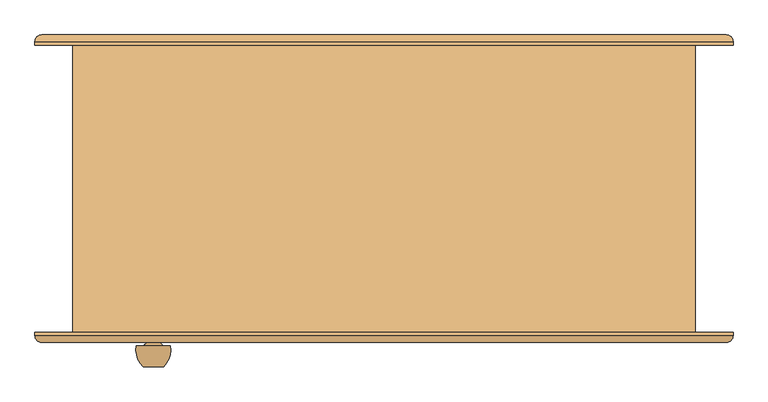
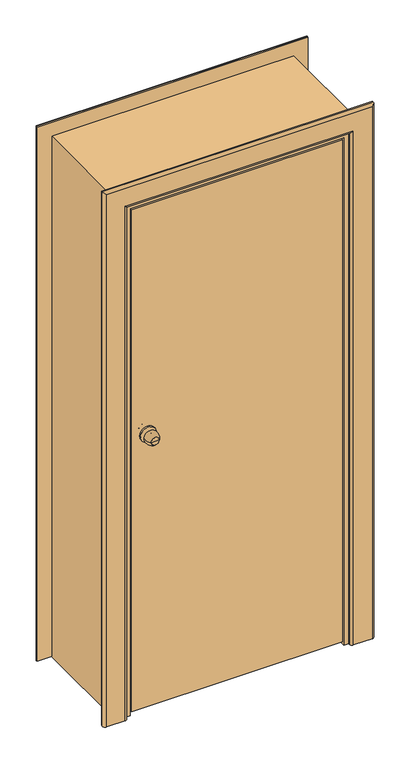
"""IFC4 building model written with IfcOpenShell, lengths in millimetres: door geometry, Внутренняя дверь 1-Навесная - 6629-88 : ДГ 21-9  ГОСТ 6629-88."""

from ifc_helpers import new_model, si_unit, point, frame, origin, place, context, project, spatial, polyline, circle_curve, ellipse_curve, trimmed, outline, extrude, faceted_brep, source, transform, mapped, element, save
from ifc_brep_helpers import plane_surface, cylinder_surface, revolved_surface, advanced_brep


def door_3d735259(model_context):
    return source(origin(), model_context, "Body", "SolidModel", [
        advanced_brep(
        [(-322.0, -260.0, 1100.0), (-352.0, -260.0, 1100.0), (-337.0, -260.0, 1100.0), (-312.0, -230.0, 1100.0), (-362.0, -230.0, 1100.0), (-319.0, -230.0, 1100.0), (-355.0, -230.0, 1100.0), (-327.0, -222.0, 1100.0), (-347.0, -222.0, 1100.0), (-327.0, -216.0, 1100.0), (-347.0, -216.0, 1100.0), (-367.0, -216.0, 1100.0), (-307.0, -216.0, 1100.0), (-367.0, -210.0, 1100.0), (-307.0, -210.0, 1100.0)],
        [
            (0, 1, circle_curve(frame((-337.0, -260.0, 1100.0), z_axis=(0.0, -1.0, 0.0), x_axis=(-1.0, 0.0, 0.0)), 15.0)),
            (1, 2),
            (2, 0),
            (1, 0, circle_curve(frame((-337.0, -260.0, 1100.0), z_axis=(0.0, -1.0, 0.0), x_axis=(-1.0, 0.0, 0.0)), 15.0)),
            (0, 3, circle_curve(frame((-346.6226265, -235.1257912, 1100.0), z_axis=(0.0, 0.0, 1.0), x_axis=(-1.0, 0.0, 0.0)), 35.0)),
            (3, 4, circle_curve(frame((-337.0, -230.0, 1100.0), z_axis=(0.0, -1.0, 0.0), x_axis=(-1.0, 0.0, 0.0)), 25.0)),
            (4, 1, circle_curve(frame((-327.3773735, -235.1257912, 1100.0), z_axis=(0.0, 0.0, 1.0), x_axis=(1.0, 0.0, 0.0)), 35.0)),
            (4, 3, circle_curve(frame((-337.0, -230.0, 1100.0), z_axis=(0.0, -1.0, 0.0), x_axis=(-1.0, 0.0, 0.0)), 25.0)),
            (3, 5),
            (5, 6, circle_curve(frame((-337.0, -230.0, 1100.0), z_axis=(0.0, -1.0, 0.0), x_axis=(-1.0, 0.0, 0.0)), 18.0)),
            (6, 4),
            (6, 5, circle_curve(frame((-337.0, -230.0, 1100.0), z_axis=(0.0, -1.0, 0.0), x_axis=(-1.0, 0.0, 0.0)), 18.0)),
            (5, 7, circle_curve(frame((-319.0, -222.0, 1100.0), z_axis=(0.0, 0.0, -1.0), x_axis=(-1.0, 0.0, 0.0)), 8.0)),
            (7, 8, circle_curve(frame((-337.0, -222.0, 1100.0), z_axis=(0.0, -1.0, 0.0), x_axis=(-1.0, 0.0, 0.0)), 10.0)),
            (8, 6, circle_curve(frame((-355.0, -222.0, 1100.0), z_axis=(0.0, 0.0, -1.0), x_axis=(1.0, 0.0, 0.0)), 8.0)),
            (8, 7, circle_curve(frame((-337.0, -222.0, 1100.0), z_axis=(0.0, -1.0, 0.0), x_axis=(-1.0, 0.0, 0.0)), 10.0)),
            (7, 9),
            (9, 10, circle_curve(frame((-337.0, -216.0, 1100.0), z_axis=(0.0, -1.0, 0.0), x_axis=(-1.0, 0.0, 0.0)), 10.0)),
            (10, 8),
            (10, 9, circle_curve(frame((-337.0, -216.0, 1100.0), z_axis=(0.0, -1.0, 0.0), x_axis=(-1.0, 0.0, 0.0)), 10.0)),
            (11, 12, circle_curve(frame((-337.0, -216.0, 1100.0), z_axis=(0.0, -1.0, 0.0), x_axis=(1.0, 0.0, 0.0)), 30.0)),
            (12, 11, circle_curve(frame((-337.0, -216.0, 1100.0), z_axis=(0.0, -1.0, 0.0), x_axis=(1.0, 0.0, 0.0)), 30.0)),
            (13, 14, circle_curve(frame((-337.0, -210.0, 1100.0), z_axis=(0.0, 1.0, 0.0), x_axis=(1.0, 0.0, 0.0)), 30.0)),
            (14, 13, circle_curve(frame((-337.0, -210.0, 1100.0), z_axis=(0.0, 1.0, 0.0), x_axis=(1.0, 0.0, 0.0)), 30.0)),
            (11, 13),
            (14, 12),
        ],
        [
            plane_surface(frame((-337.0, -260.0, 1100.0), z_axis=(0.0, -1.0, 0.0), x_axis=(-1.0, 0.0, 0.0))),
            revolved_surface(trimmed(ellipse_curve(frame((-327.3773735, -235.1257912, 1100.0), z_axis=(0.0, 0.0, -1.0), x_axis=(1.0, 0.0, 0.0)), 35.0, 35.0), [point((-352.0, -260.0, 1100.0))], [point((-362.0, -230.0, 1100.0))], True, "CARTESIAN"), (-337.0, -290.0, 1100.0), (0.0, 1.0, 0.0)),
            plane_surface(frame((-337.0, -230.0, 1100.0), z_axis=(0.0, 1.0, 0.0), x_axis=(-1.0, 0.0, 0.0))),
            revolved_surface(trimmed(ellipse_curve(frame((-355.0, -222.0, 1100.0), z_axis=(0.0, 0.0, 1.0), x_axis=(1.0, 0.0, 0.0)), 8.0, 8.0), [point((-355.0, -230.0, 1100.0))], [point((-347.0, -222.0, 1100.0))], True, "CARTESIAN"), (-337.0, -290.0, 1100.0), (0.0, 1.0, 0.0)),
            cylinder_surface(frame((-337.0, -290.0, 1100.0), z_axis=(0.0, 1.0, 0.0), x_axis=(-1.0, 0.0, 0.0)), 10.0),
            plane_surface(frame((-307.0, -216.0, 1100.0), z_axis=(0.0, -1.0, 0.0), x_axis=(0.0, 0.0, 1.0))),
            plane_surface(frame((-307.0, -210.0, 1100.0), z_axis=(0.0, 1.0, 0.0), x_axis=(0.0, 0.0, -1.0))),
            cylinder_surface(frame((-337.0, -210.0, 1100.0), z_axis=(0.0, -1.0, 0.0), x_axis=(1.0, 0.0, 0.0)), 30.0),
        ],
        [
            (0, [[1, 2, 3]]),
            (0, [[-2, 4, -3]]),
            (1, [[-1, 5, 6, 7]]),
            (1, [[-4, -7, 8, -5]]),
            (2, [[-6, 9, 10, 11]]),
            (2, [[-8, -11, 12, -9]]),
            (3, [[-10, 13, 14, 15]]),
            (3, [[-12, -15, 16, -13]]),
            (4, [[-14, 17, 18, 19]]),
            (4, [[-16, -19, 20, -17]]),
            (5, [[21, 22], [-18, -20]]),
            (6, [[23, 24]]),
            (7, [[-21, 25, -24, 26]]),
            (7, [[-22, -26, -23, -25]]),
        ],
    ),
        advanced_brep(
        [(-352.0, -123.0, 1100.0), (-322.0, -123.0, 1100.0), (-337.0, -123.0, 1100.0), (-362.0, -153.0, 1100.0), (-312.0, -153.0, 1100.0), (-355.0, -153.0, 1100.0), (-319.0, -153.0, 1100.0), (-347.0, -161.0, 1100.0), (-327.0, -161.0, 1100.0), (-347.0, -167.0, 1100.0), (-327.0, -167.0, 1100.0), (-307.0, -167.0, 1100.0), (-367.0, -167.0, 1100.0), (-307.0, -173.0, 1100.0), (-367.0, -173.0, 1100.0)],
        [
            (0, 1, circle_curve(frame((-337.0, -123.0, 1100.0), z_axis=(0.0, 1.0, 0.0), x_axis=(1.0, 0.0, 0.0)), 15.0)),
            (1, 2),
            (2, 0),
            (1, 0, circle_curve(frame((-337.0, -123.0, 1100.0), z_axis=(0.0, 1.0, 0.0), x_axis=(1.0, 0.0, 0.0)), 15.0)),
            (0, 3, circle_curve(frame((-327.3773735, -147.8742088, 1100.0), z_axis=(0.0, 0.0, 1.0), x_axis=(1.0, 0.0, 0.0)), 35.0)),
            (3, 4, circle_curve(frame((-337.0, -153.0, 1100.0), z_axis=(0.0, 1.0, 0.0), x_axis=(1.0, 0.0, 0.0)), 25.0)),
            (4, 1, circle_curve(frame((-346.6226265, -147.8742088, 1100.0), z_axis=(0.0, 0.0, 1.0), x_axis=(-1.0, 0.0, 0.0)), 35.0)),
            (4, 3, circle_curve(frame((-337.0, -153.0, 1100.0), z_axis=(0.0, 1.0, 0.0), x_axis=(1.0, 0.0, 0.0)), 25.0)),
            (3, 5),
            (5, 6, circle_curve(frame((-337.0, -153.0, 1100.0), z_axis=(0.0, 1.0, 0.0), x_axis=(1.0, 0.0, 0.0)), 18.0)),
            (6, 4),
            (6, 5, circle_curve(frame((-337.0, -153.0, 1100.0), z_axis=(0.0, 1.0, 0.0), x_axis=(1.0, 0.0, 0.0)), 18.0)),
            (5, 7, circle_curve(frame((-355.0, -161.0, 1100.0), z_axis=(0.0, 0.0, -1.0), x_axis=(1.0, 0.0, 0.0)), 8.0)),
            (7, 8, circle_curve(frame((-337.0, -161.0, 1100.0), z_axis=(0.0, 1.0, 0.0), x_axis=(1.0, 0.0, 0.0)), 10.0)),
            (8, 6, circle_curve(frame((-319.0, -161.0, 1100.0), z_axis=(0.0, 0.0, -1.0), x_axis=(-1.0, 0.0, 0.0)), 8.0)),
            (8, 7, circle_curve(frame((-337.0, -161.0, 1100.0), z_axis=(0.0, 1.0, 0.0), x_axis=(1.0, 0.0, 0.0)), 10.0)),
            (7, 9),
            (9, 10, circle_curve(frame((-337.0, -167.0, 1100.0), z_axis=(0.0, 1.0, 0.0), x_axis=(1.0, 0.0, 0.0)), 10.0)),
            (10, 8),
            (10, 9, circle_curve(frame((-337.0, -167.0, 1100.0), z_axis=(0.0, 1.0, 0.0), x_axis=(1.0, 0.0, 0.0)), 10.0)),
            (11, 12, circle_curve(frame((-337.0, -167.0, 1100.0), z_axis=(0.0, 1.0, 0.0), x_axis=(-1.0, 0.0, 0.0)), 30.0)),
            (12, 11, circle_curve(frame((-337.0, -167.0, 1100.0), z_axis=(0.0, 1.0, 0.0), x_axis=(-1.0, 0.0, 0.0)), 30.0)),
            (13, 14, circle_curve(frame((-337.0, -173.0, 1100.0), z_axis=(0.0, -1.0, 0.0), x_axis=(-1.0, 0.0, 0.0)), 30.0)),
            (14, 13, circle_curve(frame((-337.0, -173.0, 1100.0), z_axis=(0.0, -1.0, 0.0), x_axis=(-1.0, 0.0, 0.0)), 30.0)),
            (11, 13),
            (14, 12),
        ],
        [
            plane_surface(frame((-337.0, -123.0, 1100.0), z_axis=(0.0, 1.0, 0.0), x_axis=(1.0, 0.0, 0.0))),
            revolved_surface(trimmed(ellipse_curve(frame((-346.6226265, -147.8742088, 1100.0), z_axis=(0.0, 0.0, -1.0), x_axis=(-1.0, 0.0, 0.0)), 35.0, 35.0), [point((-322.0, -123.0, 1100.0))], [point((-312.0, -153.0, 1100.0))], True, "CARTESIAN"), (-337.0, -93.0, 1100.0), (0.0, -1.0, 0.0)),
            plane_surface(frame((-337.0, -153.0, 1100.0), z_axis=(0.0, -1.0, 0.0), x_axis=(1.0, 0.0, 0.0))),
            revolved_surface(trimmed(ellipse_curve(frame((-319.0, -161.0, 1100.0), z_axis=(0.0, 0.0, 1.0), x_axis=(-1.0, 0.0, 0.0)), 8.0, 8.0), [point((-319.0, -153.0, 1100.0))], [point((-327.0, -161.0, 1100.0))], True, "CARTESIAN"), (-337.0, -93.0, 1100.0), (0.0, -1.0, 0.0)),
            cylinder_surface(frame((-337.0, -93.0, 1100.0), z_axis=(0.0, -1.0, 0.0), x_axis=(1.0, 0.0, 0.0)), 10.0),
            plane_surface(frame((-367.0, -167.0, 1100.0), z_axis=(0.0, 1.0, 0.0), x_axis=(0.0, 0.0, 1.0))),
            plane_surface(frame((-367.0, -173.0, 1100.0), z_axis=(0.0, -1.0, 0.0), x_axis=(0.0, 0.0, -1.0))),
            cylinder_surface(frame((-337.0, -173.0, 1100.0), z_axis=(0.0, 1.0, 0.0), x_axis=(-1.0, 0.0, 0.0)), 30.0),
        ],
        [
            (0, [[1, 2, 3]]),
            (0, [[-2, 4, -3]]),
            (1, [[-1, 5, 6, 7]]),
            (1, [[-4, -7, 8, -5]]),
            (2, [[-6, 9, 10, 11]]),
            (2, [[-8, -11, 12, -9]]),
            (3, [[-10, 13, 14, 15]]),
            (3, [[-12, -15, 16, -13]]),
            (4, [[-14, 17, 18, 19]]),
            (4, [[-16, -19, 20, -17]]),
            (5, [[21, 22], [-18, -20]]),
            (6, [[23, 24]]),
            (7, [[-21, 25, -24, 26]]),
            (7, [[-22, -26, -23, -25]]),
        ],
    ),
        extrude(outline(polyline([(0.0, 420.0), (0.0, 435.0), (2050.0, 435.0), (2050.0, -435.0), (0.0, -435.0), (0.0, -420.0), (2035.0, -420.0), (2035.0, 420.0), (0.0, 420.0)])), frame((0.0, -136.0, 0.0), z_axis=(0.0, 1.0, 0.0), x_axis=(0.0, 0.0, 1.0)), (0.0, 0.0, 1.0), 346.0),
        advanced_brep(
        [(-510.0, -210.0, 0.0), (-420.0, -210.0, 0.0), (-420.0, -215.0, 0.0), (-430.0, -225.0, 0.0), (-500.0, -225.0, 0.0), (-510.0, -215.0, 0.0), (-510.0, -210.0, 2125.0), (510.0, -210.0, 2125.0), (510.0, -210.0, 0.0), (420.0, -210.0, 0.0), (420.0, -210.0, 2035.0), (-420.0, -210.0, 2035.0), (-420.0, -215.0, 2035.0), (-430.0, -225.0, 2045.0), (430.0, -225.0, 2045.0), (430.0, -225.0, 0.0), (500.0, -225.0, 0.0), (500.0, -225.0, 2115.0), (-500.0, -225.0, 2115.0), (-510.0, -215.0, 2125.0), (510.0, -215.0, 2125.0), (510.0, -215.0, 0.0), (420.0, -215.0, 0.0), (420.0, -215.0, 2035.0)],
        [
            (0, 1),
            (1, 2),
            (2, 3, circle_curve(frame((-430.0, -215.0, 0.0), z_axis=(0.0, 0.0, -1.0), x_axis=(-1.0, 0.0, 0.0)), 10.0)),
            (3, 4),
            (4, 5, circle_curve(frame((-500.0, -215.0, 0.0), z_axis=(0.0, 0.0, -1.0), x_axis=(-1.0, 0.0, 0.0)), 10.0)),
            (5, 0),
            (0, 6),
            (6, 7),
            (7, 8),
            (8, 9),
            (9, 10),
            (10, 11),
            (11, 1),
            (11, 12),
            (12, 2),
            (12, 13, ellipse_curve(frame((-430.0, -215.0, 2045.0), z_axis=(-0.7071067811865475, 0.0, -0.7071067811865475), x_axis=(0.7071067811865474, 0.0, -0.7071067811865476)), 14.1421356, 10.0)),
            (13, 3),
            (13, 14),
            (14, 15),
            (15, 16),
            (16, 17),
            (17, 18),
            (18, 4),
            (18, 19, ellipse_curve(frame((-500.0, -215.0, 2115.0), z_axis=(-0.7071067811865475, 0.0, -0.7071067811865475), x_axis=(0.7071067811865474, 0.0, -0.7071067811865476)), 14.1421356, 10.0)),
            (19, 5),
            (19, 6),
            (7, 20),
            (20, 21),
            (21, 8),
            (21, 16, circle_curve(frame((500.0, -215.0, 0.0), z_axis=(0.0, 0.0, -1.0), x_axis=(1.0, 0.0, 0.0)), 10.0)),
            (15, 22, circle_curve(frame((430.0, -215.0, 0.0), z_axis=(0.0, 0.0, -1.0), x_axis=(1.0, 0.0, 0.0)), 10.0)),
            (22, 9),
            (23, 10),
            (22, 23),
            (14, 23, ellipse_curve(frame((430.0, -215.0, 2045.0), z_axis=(0.7071067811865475, 0.0, -0.7071067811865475), x_axis=(0.7071067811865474, 0.0, 0.7071067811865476)), 14.1421356, 10.0)),
            (20, 17, ellipse_curve(frame((500.0, -215.0, 2115.0), z_axis=(0.7071067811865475, 0.0, -0.7071067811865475), x_axis=(0.7071067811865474, 0.0, 0.7071067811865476)), 14.1421356, 10.0)),
            (23, 12),
            (20, 19),
        ],
        [
            plane_surface(frame((-455.0, -210.0, 0.0), z_axis=(0.0, 0.0, -1.0), x_axis=(0.0, 1.0, 0.0))),
            plane_surface(frame((-510.0, -210.0, 0.0), z_axis=(0.0, 1.0, 0.0), x_axis=(0.0, 0.0, 1.0))),
            plane_surface(frame((-420.0, -210.0, 0.0), z_axis=(1.0, 0.0, 0.0), x_axis=(0.0, 0.0, 1.0))),
            cylinder_surface(frame((-430.0, -215.0, 0.0), z_axis=(0.0, 0.0, -1.0), x_axis=(-1.0, 0.0, 0.0)), 10.0),
            plane_surface(frame((-430.0, -225.0, 0.0), z_axis=(0.0, -1.0, 0.0), x_axis=(0.0, 0.0, 1.0))),
            cylinder_surface(frame((-500.0, -215.0, 0.0), z_axis=(0.0, 0.0, -1.0), x_axis=(-1.0, 0.0, 0.0)), 10.0),
            plane_surface(frame((-510.0, -215.0, 0.0), z_axis=(-1.0, 0.0, 0.0), x_axis=(0.0, 0.0, 1.0))),
            plane_surface(frame((510.0, -215.0, 2125.0), z_axis=(1.0, 0.0, 0.0), x_axis=(0.0, 0.0, -1.0))),
            plane_surface(frame((455.0, -210.0, 0.0), z_axis=(0.0, 0.0, -1.0), x_axis=(0.0, 1.0, 0.0))),
            plane_surface(frame((420.0, -210.0, 2035.0), z_axis=(-1.0, 0.0, 0.0), x_axis=(0.0, 0.0, -1.0))),
            cylinder_surface(frame((430.0, -215.0, 2070.0), z_axis=(0.0, 0.0, 1.0), x_axis=(1.0, 0.0, 0.0)), 10.0),
            cylinder_surface(frame((500.0, -215.0, 2070.0), z_axis=(0.0, 0.0, 1.0), x_axis=(1.0, 0.0, 0.0)), 10.0),
            plane_surface(frame((-420.0, -210.0, 2035.0), z_axis=(0.0, 0.0, -1.0), x_axis=(1.0, 0.0, 0.0))),
            cylinder_surface(frame((-455.0, -215.0, 2045.0), z_axis=(-1.0, 0.0, 0.0), x_axis=(0.0, 0.0, 1.0)), 10.0),
            cylinder_surface(frame((-455.0, -215.0, 2115.0), z_axis=(-1.0, 0.0, 0.0), x_axis=(0.0, 0.0, 1.0)), 10.0),
            plane_surface(frame((-510.0, -215.0, 2125.0), z_axis=(0.0, 0.0, 1.0), x_axis=(1.0, 0.0, 0.0))),
        ],
        [
            (0, [[1, 2, 3, 4, 5, 6]]),
            (1, [[-1, 7, 8, 9, 10, 11, 12, 13]]),
            (2, [[-2, -13, 14, 15]]),
            (3, [[-3, -15, 16, 17]]),
            (4, [[-4, -17, 18, 19, 20, 21, 22, 23]]),
            (5, [[-5, -23, 24, 25]]),
            (6, [[-6, -25, 26, -7]]),
            (7, [[27, 28, 29, -9]]),
            (8, [[-29, 30, -20, 31, 32, -10]]),
            (9, [[33, -11, -32, 34]]),
            (10, [[35, -34, -31, -19]]),
            (11, [[36, -21, -30, -28]]),
            (12, [[-14, -12, -33, 37]]),
            (13, [[-16, -37, -35, -18]]),
            (14, [[-24, -22, -36, 38]]),
            (15, [[-26, -38, -27, -8]]),
        ],
    ),
        advanced_brep(
        [(510.0, 210.0, 0.0), (420.0, 210.0, 0.0), (420.0, 215.0, 0.0), (430.0, 225.0, 0.0), (500.0, 225.0, 0.0), (510.0, 215.0, 0.0), (510.0, 210.0, 2125.0), (-510.0, 210.0, 2125.0), (-510.0, 210.0, 0.0), (-420.0, 210.0, 0.0), (-420.0, 210.0, 2035.0), (420.0, 210.0, 2035.0), (420.0, 215.0, 2035.0), (430.0, 225.0, 2045.0), (-430.0, 225.0, 2045.0), (-430.0, 225.0, 0.0), (-500.0, 225.0, 0.0), (-500.0, 225.0, 2115.0), (500.0, 225.0, 2115.0), (510.0, 215.0, 2125.0), (-510.0, 215.0, 2125.0), (-510.0, 215.0, 0.0), (-420.0, 215.0, 0.0), (-420.0, 215.0, 2035.0)],
        [
            (0, 1),
            (1, 2),
            (2, 3, circle_curve(frame((430.0, 215.0, 0.0), z_axis=(0.0, 0.0, -1.0), x_axis=(1.0, 0.0, 0.0)), 10.0)),
            (3, 4),
            (4, 5, circle_curve(frame((500.0, 215.0, 0.0), z_axis=(0.0, 0.0, -1.0), x_axis=(1.0, 0.0, 0.0)), 10.0)),
            (5, 0),
            (0, 6),
            (6, 7),
            (7, 8),
            (8, 9),
            (9, 10),
            (10, 11),
            (11, 1),
            (11, 12),
            (12, 2),
            (12, 13, ellipse_curve(frame((430.0, 215.0, 2045.0), z_axis=(0.7071067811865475, 0.0, -0.7071067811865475), x_axis=(-0.7071067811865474, 0.0, -0.7071067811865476)), 14.1421356, 10.0)),
            (13, 3),
            (13, 14),
            (14, 15),
            (15, 16),
            (16, 17),
            (17, 18),
            (18, 4),
            (18, 19, ellipse_curve(frame((500.0, 215.0, 2115.0), z_axis=(0.7071067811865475, 0.0, -0.7071067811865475), x_axis=(-0.7071067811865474, 0.0, -0.7071067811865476)), 14.1421356, 10.0)),
            (19, 5),
            (19, 6),
            (7, 20),
            (20, 21),
            (21, 8),
            (21, 16, circle_curve(frame((-500.0, 215.0, 0.0), z_axis=(0.0, 0.0, -1.0), x_axis=(-1.0, 0.0, 0.0)), 10.0)),
            (15, 22, circle_curve(frame((-430.0, 215.0, 0.0), z_axis=(0.0, 0.0, -1.0), x_axis=(-1.0, 0.0, 0.0)), 10.0)),
            (22, 9),
            (23, 10),
            (22, 23),
            (14, 23, ellipse_curve(frame((-430.0, 215.0, 2045.0), z_axis=(-0.7071067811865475, 0.0, -0.7071067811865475), x_axis=(-0.7071067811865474, 0.0, 0.7071067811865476)), 14.1421356, 10.0)),
            (20, 17, ellipse_curve(frame((-500.0, 215.0, 2115.0), z_axis=(-0.7071067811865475, 0.0, -0.7071067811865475), x_axis=(-0.7071067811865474, 0.0, 0.7071067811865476)), 14.1421356, 10.0)),
            (23, 12),
            (20, 19),
        ],
        [
            plane_surface(frame((455.0, 210.0, 0.0), z_axis=(0.0, 0.0, -1.0), x_axis=(0.0, -1.0, 0.0))),
            plane_surface(frame((510.0, 210.0, 0.0), z_axis=(0.0, -1.0, 0.0), x_axis=(0.0, 0.0, 1.0))),
            plane_surface(frame((420.0, 210.0, 0.0), z_axis=(-1.0, 0.0, 0.0), x_axis=(0.0, 0.0, 1.0))),
            cylinder_surface(frame((430.0, 215.0, 0.0), z_axis=(0.0, 0.0, -1.0), x_axis=(1.0, 0.0, 0.0)), 10.0),
            plane_surface(frame((430.0, 225.0, 0.0), z_axis=(0.0, 1.0, 0.0), x_axis=(0.0, 0.0, 1.0))),
            cylinder_surface(frame((500.0, 215.0, 0.0), z_axis=(0.0, 0.0, -1.0), x_axis=(1.0, 0.0, 0.0)), 10.0),
            plane_surface(frame((510.0, 215.0, 0.0), z_axis=(1.0, 0.0, 0.0), x_axis=(0.0, 0.0, 1.0))),
            plane_surface(frame((-510.0, 215.0, 2125.0), z_axis=(-1.0, 0.0, 0.0), x_axis=(0.0, 0.0, -1.0))),
            plane_surface(frame((-455.0, 210.0, 0.0), z_axis=(0.0, 0.0, -1.0), x_axis=(0.0, -1.0, 0.0))),
            plane_surface(frame((-420.0, 210.0, 2035.0), z_axis=(1.0, 0.0, 0.0), x_axis=(0.0, 0.0, -1.0))),
            cylinder_surface(frame((-430.0, 215.0, 2070.0), z_axis=(0.0, 0.0, 1.0), x_axis=(-1.0, 0.0, 0.0)), 10.0),
            cylinder_surface(frame((-500.0, 215.0, 2070.0), z_axis=(0.0, 0.0, 1.0), x_axis=(-1.0, 0.0, 0.0)), 10.0),
            plane_surface(frame((420.0, 210.0, 2035.0), z_axis=(0.0, 0.0, -1.0), x_axis=(-1.0, 0.0, 0.0))),
            cylinder_surface(frame((455.0, 215.0, 2045.0), z_axis=(1.0, 0.0, 0.0), x_axis=(0.0, 0.0, 1.0)), 10.0),
            cylinder_surface(frame((455.0, 215.0, 2115.0), z_axis=(1.0, 0.0, 0.0), x_axis=(0.0, 0.0, 1.0)), 10.0),
            plane_surface(frame((510.0, 215.0, 2125.0), z_axis=(0.0, 0.0, 1.0), x_axis=(-1.0, 0.0, 0.0))),
        ],
        [
            (0, [[1, 2, 3, 4, 5, 6]]),
            (1, [[-1, 7, 8, 9, 10, 11, 12, 13]]),
            (2, [[-2, -13, 14, 15]]),
            (3, [[-3, -15, 16, 17]]),
            (4, [[-4, -17, 18, 19, 20, 21, 22, 23]]),
            (5, [[-5, -23, 24, 25]]),
            (6, [[-6, -25, 26, -7]]),
            (7, [[27, 28, 29, -9]]),
            (8, [[-29, 30, -20, 31, 32, -10]]),
            (9, [[33, -11, -32, 34]]),
            (10, [[35, -34, -31, -19]]),
            (11, [[36, -21, -30, -28]]),
            (12, [[-14, -12, -33, 37]]),
            (13, [[-16, -37, -35, -18]]),
            (14, [[-24, -22, -36, 38]]),
            (15, [[-26, -38, -27, -8]]),
        ],
    ),
        faceted_brep([(390.0, -136.0, 0.0), (435.0, -136.0, 0.0), (435.0, -210.0, 0.0), (402.0, -210.0, 0.0), (402.0, -168.0, 0.0), (390.0, -168.0, 0.0), (390.0, -136.0, 2005.0), (-390.0, -136.0, 2005.0), (-390.0, -136.0, 0.0), (-435.0, -136.0, 0.0), (-435.0, -136.0, 2050.0), (435.0, -136.0, 2050.0), (435.0, -210.0, 2050.0), (-435.0, -210.0, 2050.0), (-435.0, -210.0, 0.0), (-402.0, -210.0, 0.0), (-402.0, -210.0, 2017.0), (402.0, -210.0, 2017.0), (402.0, -168.0, 2017.0), (-402.0, -168.0, 2017.0), (-402.0, -168.0, 0.0), (-390.0, -168.0, 0.0), (-390.0, -168.0, 2005.0), (390.0, -168.0, 2005.0)], [[[0, 1, 2, 3, 4, 5]], [[1, 0, 6, 7, 8, 9, 10, 11]], [[2, 1, 11, 12]], [[3, 2, 12, 13, 14, 15, 16, 17]], [[4, 3, 17, 18]], [[5, 4, 18, 19, 20, 21, 22, 23]], [[0, 5, 23, 6]], [[7, 22, 21, 8]], [[8, 21, 20, 15, 14, 9]], [[13, 10, 9, 14]], [[19, 16, 15, 20]], [[12, 11, 10, 13]], [[18, 17, 16, 19]], [[6, 23, 22, 7]]]),
        extrude(outline(polyline([(0.0, 435.0), (0.0, 455.0), (2070.0, 455.0), (2070.0, -455.0), (0.0, -455.0), (0.0, -435.0), (2050.0, -435.0), (2050.0, 435.0), (0.0, 435.0)])), frame((0.0, -210.0, 0.0), z_axis=(0.0, 1.0, 0.0), x_axis=(0.0, 0.0, 1.0)), (0.0, 0.0, 1.0), 420.0),
        extrude(outline(polyline([(397.0, -173.0), (397.0, -210.0), (-397.0, -210.0), (-397.0, -173.0), (397.0, -173.0)])), frame((0.0, 0.0, 15.0), z_axis=(0.0, 0.0, 1.0), x_axis=(1.0, 0.0, 0.0)), (0.0, 0.0, 1.0), 1997.0),
    ])


if __name__ == "__main__":
    model = new_model("IFC4")
    model_context = context("Model", 3, world=origin())
    ifc_project = project(units=[si_unit("LENGTHUNIT", "METRE", prefix="MILLI")], contexts=[model_context])
    site = spatial("IfcSite", under=ifc_project)
    building = spatial("IfcBuilding", under=site)
    placement = place(None, origin())
    door_shape = door_3d735259(model_context)
    element("IfcDoor", 1, ObjectType="Внутренняя дверь 1-Навесная - 6629-88 : ДГ 21-9  ГОСТ 6629-88", at=placement, inside=building, context=model_context, shape_type="MappedRepresentation", body=[
        mapped(door_shape, transform((0.0, 0.0, 0.0), x_axis=(1.0, 0.0, 0.0), y_axis=(0.0, 1.0, 0.0), z_axis=(0.0, 0.0, 1.0))),
    ])
    save(model, "model.ifc")
